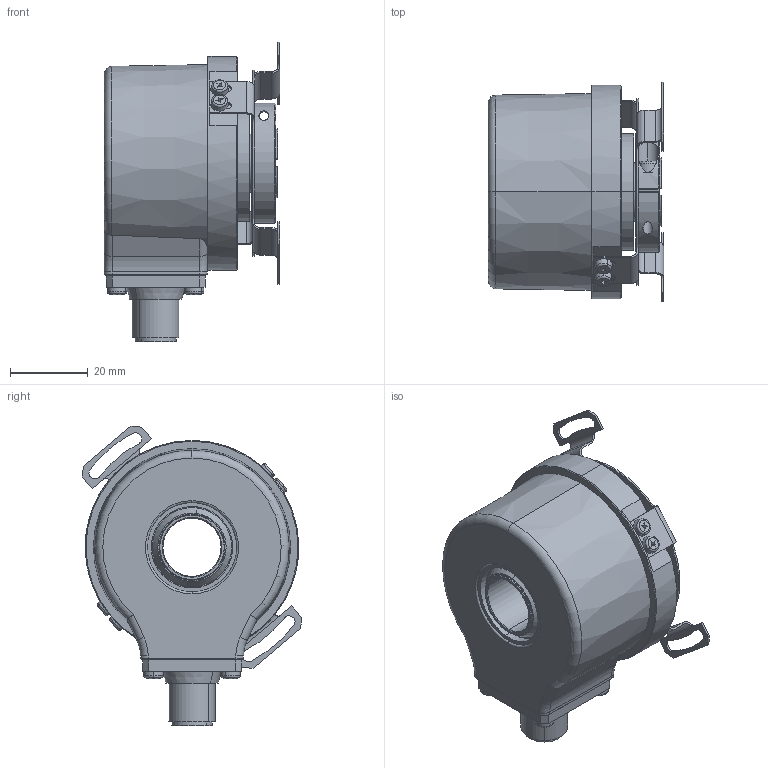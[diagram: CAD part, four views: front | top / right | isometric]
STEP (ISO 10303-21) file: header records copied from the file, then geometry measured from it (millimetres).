
FILE_DESCRIPTION (( 'STEP AP214' ), '1' );
FILE_NAME ('8.5020.D8X2.XXXX.STEP', '2011-01-11T07:24:58', ( 'admin' ), ( 'Fritz Kübler GmbH' ), 'SwSTEP 2.0', 'SolidWorks 2009', '' );
FILE_SCHEMA (( 'AUTOMOTIVE_DESIGN' ));
Length unit declared in the file: millimetre
Products named in the file (1): 8.5020.D8X2.XXXX
Bounding box: 45.2 x 56.46 x 77.19 mm (x, y, z)
Surface area: 21960.7 mm2 (no closed solid volume)
Topology: 0 solids, 25 shells, 413 faces, 1161 edges, 751 vertices
Faces by surface type: plane 198, cylinder 124, cone 35, torus 28, sphere 24, bspline 4
Entity records: 18040 total; most frequent: CARTESIAN_POINT 2846, DIRECTION 2349, ORIENTED_EDGE 2027, EDGE_CURVE 1129, AXIS2_PLACEMENT_3D 876, VERTEX_POINT 735, VECTOR 597, LINE 597
